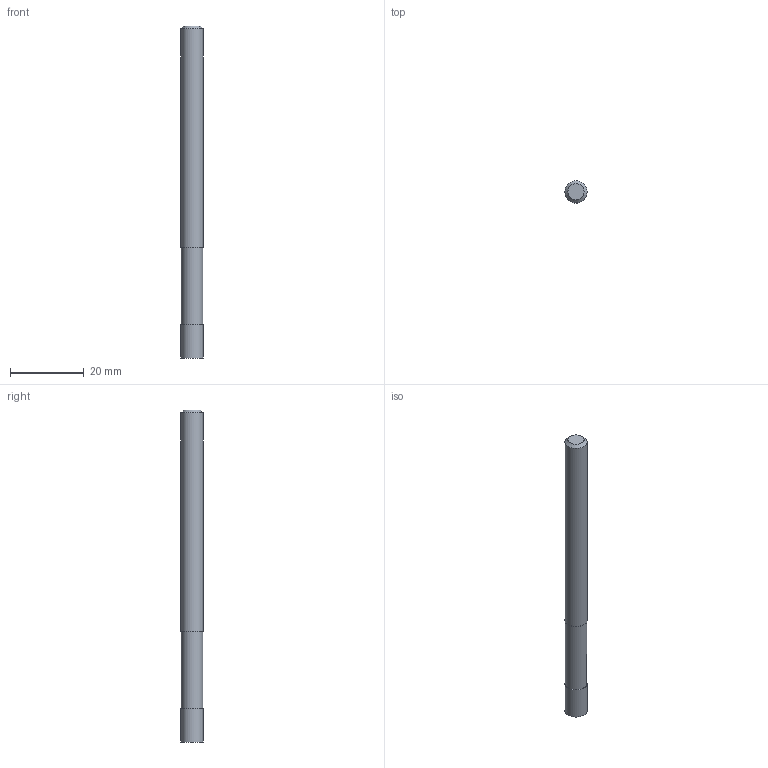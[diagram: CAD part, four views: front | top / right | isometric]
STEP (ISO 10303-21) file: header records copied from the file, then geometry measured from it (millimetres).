
FILE_DESCRIPTION((''),'2;1');
FILE_NAME('C:\Users\nsx150\AppData\Local\Temp\Mastercam 2021\17T8Q8S9EB\TEMP.step','2021-04-21T16:16:36',(''),(''),'STEP Write','Mastercam 2021 ... CNC Software, Inc.','');
FILE_SCHEMA(('AUTOMOTIVE_DESIGN'));
Length unit declared in the file: millimetre
Products named in the file (1): None
Bounding box: 6 x 6 x 90 mm (x, y, z)
Volume: 2500.3 mm3; surface area: 1786.7 mm2
Topology: 2 solids, 2 shells, 9 faces, 11 edges, 7 vertices
Faces by surface type: plane 5, cylinder 3, cone 1
Full cylindrical faces by diameter (mm): 5.8 x1, 6 x2
Entity records: 211 total; most frequent: DIRECTION 36, CARTESIAN_POINT 25, AXIS2_PLACEMENT_3D 18, ORIENTED_EDGE 14, EDGE_LOOP 14, STYLED_ITEM 12, ADVANCED_FACE 9, FACE_BOUND 8
